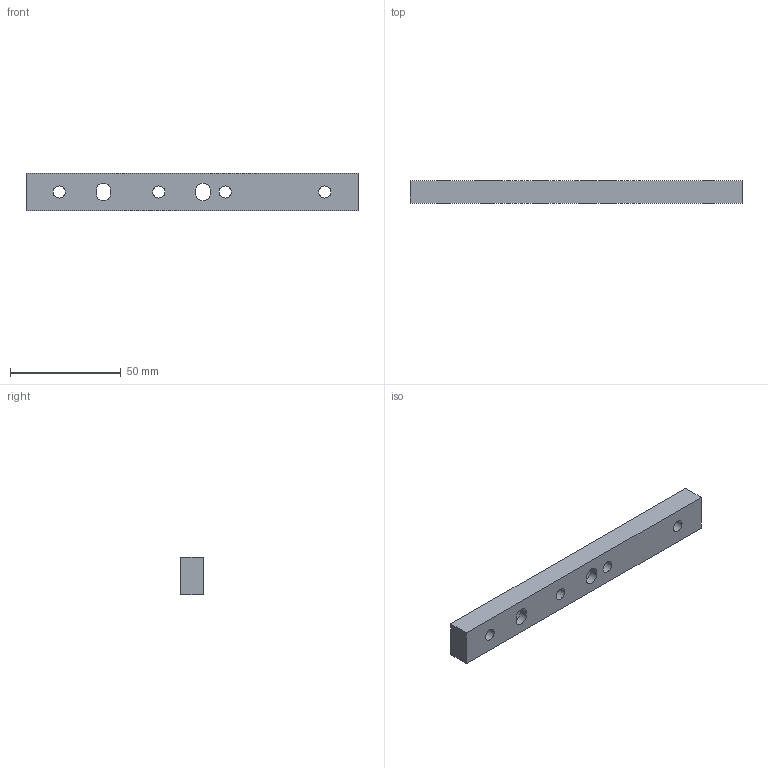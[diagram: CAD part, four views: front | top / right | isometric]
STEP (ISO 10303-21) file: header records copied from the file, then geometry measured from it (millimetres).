
FILE_DESCRIPTION((''),'2;1');
FILE_NAME('FRACTAL-TRANSFOR','2025-05-23T18:48:40',('程川'),(''),'CREO PARAMETRIC BY PTC INC, 2021023','CREO PARAMETRIC BY PTC INC, 2021023','');
FILE_SCHEMA(('CONFIG_CONTROL_DESIGN','SHAPE_APPEARANCE_LAYERS_GROUPS'));
Length unit declared in the file: millimetre
Products named in the file (1): FRACTAL-TRANSFOR
Bounding box: 150 x 10 x 17 mm (x, y, z)
Volume: 22721.5 mm3; surface area: 9432.5 mm2
Topology: 1 solids, 1 shells, 32 faces, 84 edges, 56 vertices
Faces by surface type: plane 16, cylinder 16
Entity records: 1075 total; most frequent: DIRECTION 180, CARTESIAN_POINT 172, ORIENTED_EDGE 168, EDGE_CURVE 84, AXIS2_PLACEMENT_3D 64, VERTEX_POINT 56, VECTOR 52, LINE 52
